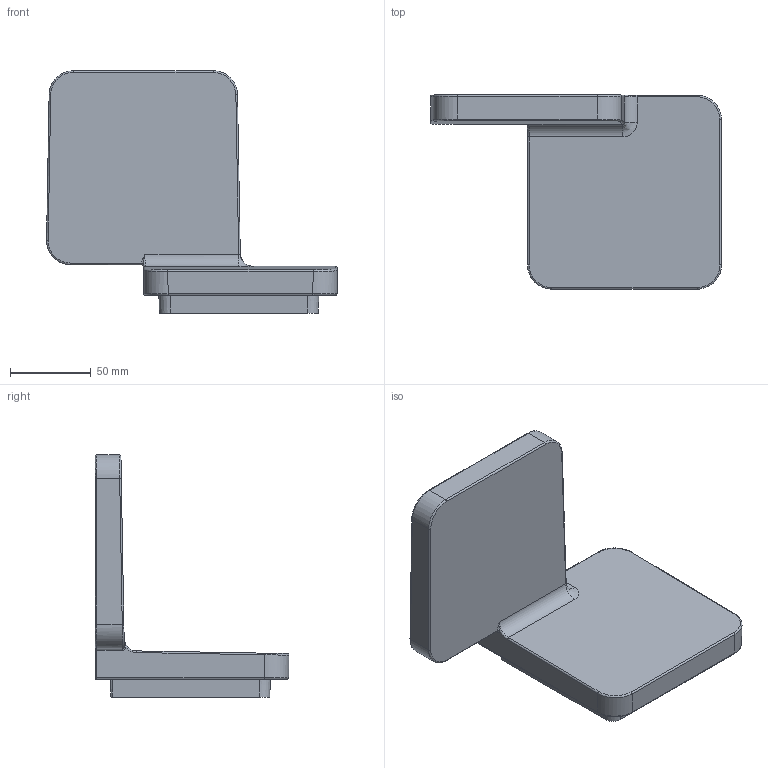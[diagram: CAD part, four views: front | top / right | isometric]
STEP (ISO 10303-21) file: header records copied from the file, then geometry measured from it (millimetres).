
FILE_DESCRIPTION(/* description */ ('Unknown'),/* implementation_level */ '2;1');
FILE_NAME(/* name */ '7750',/* time_stamp */ '2023-06-20T09:13:04+02:00',/* author */ ('Unknown'),/* organization */ ('Unknown'),/* preprocessor_version */ 'ST-DEVELOPER v18.1',/* originating_system */ 'Solid Edge',/* authorisation */ 'Unknown');
FILE_SCHEMA (('AUTOMOTIVE_DESIGN {1 0 10303 214 3 1 1}'));
Length unit declared in the file: millimetre
Products named in the file (9): 7750-7752-7753; 150000063064; 061000128356; 210000057013; 150000065064; SAL00046ZBGEZ; A1030-5; H1261-5; 216000005013
Assembly tree (11 placements, depth 2):
  7750-7752-7753
    150000063064
    061000128356
    210000057013  x3
    150000065064
    SAL00046ZBGEZ
    A1030-5
    H1261-5
    216000005013  x2
Bounding box: 180 x 120 x 150 mm (x, y, z)
Volume: 257027.1 mm3; surface area: 150546.1 mm2
Topology: 11 solids, 11 shells, 463 faces, 1135 edges, 702 vertices
Faces by surface type: plane 192, cylinder 162, bspline 34, torus 32, cone 31, sphere 12
Full cylindrical faces by diameter (mm): 2.459 x3, 3 x3, 3.242 x3, 3.5 x6, 4 x4, 4.5 x1, 6 x3, 7 x1, 50 x1, 71 x1, 74 x1, 75.505 x1, 78.428 x1
Entity records: 14232 total; most frequent: CARTESIAN_POINT 2976, DIRECTION 2118, ORIENTED_EDGE 1960, EDGE_CURVE 980, AXIS2_PLACEMENT_3D 794, VERTEX_POINT 631, LINE 530, VECTOR 530
